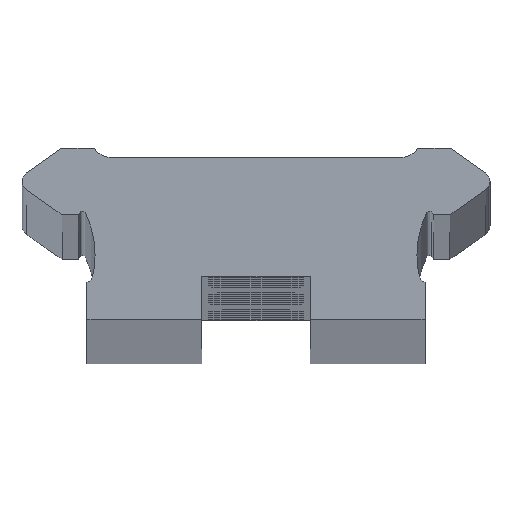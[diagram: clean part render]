
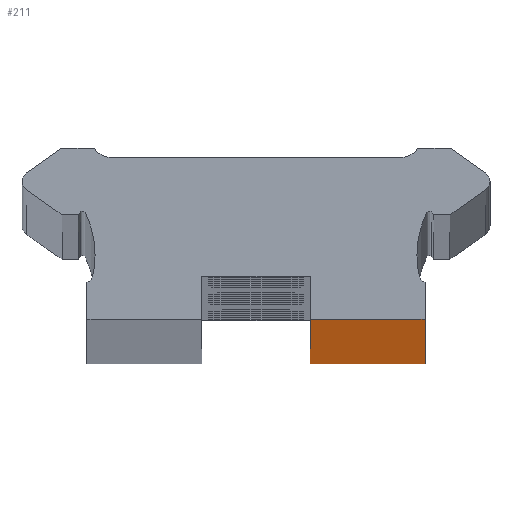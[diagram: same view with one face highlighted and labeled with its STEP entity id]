
A CAD part, top view. The second image highlights one B-rep face of the part: STEP entity #211.
In plain terms, the highlighted planar face has unit normal (0, -1, 0).
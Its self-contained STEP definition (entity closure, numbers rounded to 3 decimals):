
#211=ADVANCED_FACE('',(#533),#534,.T.);
#533=FACE_OUTER_BOUND('',#882,.T.);
#534=PLANE('',#883);
#882=EDGE_LOOP('',(#1911,#1912,#1913,#1914));
#883=AXIS2_PLACEMENT_3D('',#1915,#1916,#1917);
#1911=ORIENTED_EDGE('',*,*,#2412,.T.);
#1912=ORIENTED_EDGE('',*,*,#2413,.F.);
#1913=ORIENTED_EDGE('',*,*,#2414,.T.);
#1914=ORIENTED_EDGE('',*,*,#2410,.T.);
#1915=CARTESIAN_POINT('',(8.25,0.0,0.0));
#1916=DIRECTION('',(0.0,-1.0,0.0));
#1917=DIRECTION('',(1.0,0.0,0.0));
#2410=EDGE_CURVE('',#3001,#2999,#3002,.T.);
#2412=EDGE_CURVE('',#2999,#3004,#3005,.T.);
#2413=EDGE_CURVE('',#3006,#3004,#3007,.T.);
#2414=EDGE_CURVE('',#3006,#3001,#3008,.T.);
#2999=VERTEX_POINT('',#3738);
#3001=VERTEX_POINT('',#3741);
#3002=LINE('',#3742,#3743);
#3004=VERTEX_POINT('',#3746);
#3005=LINE('',#3747,#3748);
#3006=VERTEX_POINT('',#3749);
#3007=LINE('',#3750,#3751);
#3008=LINE('',#3752,#3753);
#3738=CARTESIAN_POINT('',(12.5,0.0,1886.0));
#3741=CARTESIAN_POINT('',(12.5,0.0,0.0));
#3742=CARTESIAN_POINT('',(12.5,0.0,0.0));
#3743=VECTOR('',#4534,1.0);
#3746=CARTESIAN_POINT('',(4.0,0.0,1886.0));
#3747=CARTESIAN_POINT('',(4.0,0.0,1886.0));
#3748=VECTOR('',#4536,1.0);
#3749=CARTESIAN_POINT('',(4.0,0.0,0.0));
#3750=CARTESIAN_POINT('',(4.0,0.0,0.0));
#3751=VECTOR('',#4537,1.0);
#3752=CARTESIAN_POINT('',(4.0,0.0,0.0));
#3753=VECTOR('',#4538,1.0);
#4534=DIRECTION('',(0.0,0.0,1.0));
#4536=DIRECTION('',(-1.0,-0.0,-0.0));
#4537=DIRECTION('',(0.0,0.0,1.0));
#4538=DIRECTION('',(1.0,0.0,0.0));
